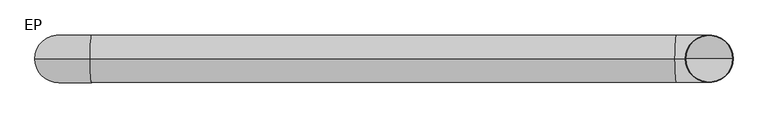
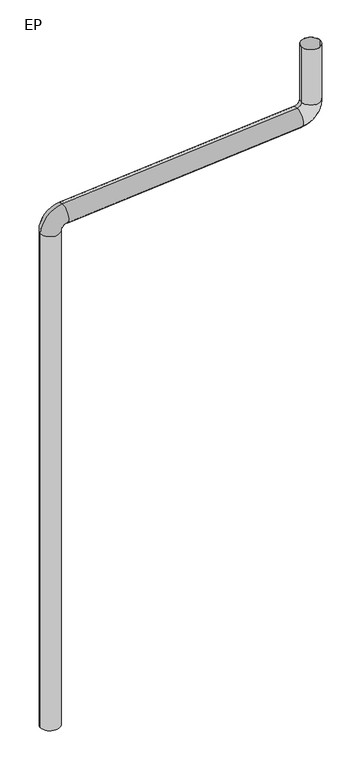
"""IFC4 building model written with IfcOpenShell, lengths in millimetres: flow terminal geometry, Descente Eau pluviale : EP."""

from ifc_helpers import new_model, si_unit, point, frame, origin, place, context, project, spatial, polyline, circle_curve, ellipse_curve, trimmed, source, transform, mapped, element, save
from ifc_brep_helpers import plane_surface, cylinder_surface, revolved_surface, advanced_brep


def ep_8dee0fc1(model_context):
    return source(origin(), model_context, "Body", "AdvancedBrep", [
        advanced_brep(
        [(40.0, 300.0, 870000.0), (-40.0, 300.0, 870000.0), (39.0, 300.0, 870000.0), (-39.0, 300.0, 870000.0), (-40.0, 300.0, 872184.7425977), (40.0, 300.0, 872184.7425977), (-39.0, 300.0, 872184.7425977), (39.0, 300.0, 872184.7425977), (51.7843344, 300.0, 872284.4045405), (58.3568669, 300.0, 872204.6749863), (51.8664911, 300.0, 872283.4079211), (58.2747102, 300.0, 872205.6716057), (1033.407977, 300.0, 872365.3250137), (1039.9805095, 300.0, 872285.5954595), (1033.4901337, 300.0, 872364.3283943), (1039.8983529, 300.0, 872286.5920789), (1051.7648439, 300.0, 872385.2574023), (1131.7648439, 300.0, 872385.2574023), (1052.7648439, 300.0, 872385.2574023), (1130.7648439, 300.0, 872385.2574023), (1131.7648439, 300.0, 872630.0), (1051.7648439, 300.0, 872630.0), (1130.7648439, 300.0, 872630.0), (1052.7648439, 300.0, 872630.0)],
        [
            (0, 1, circle_curve(frame((0.0, 300.0, 870000.0), z_axis=(0.0, 0.0, -1.0), x_axis=(-1.0, 0.0, 0.0)), 40.0)),
            (1, 0, circle_curve(frame((0.0, 300.0, 870000.0), z_axis=(0.0, 0.0, -1.0), x_axis=(-1.0, 0.0, 0.0)), 40.0)),
            (2, 3, circle_curve(frame((0.0, 300.0, 870000.0), z_axis=(0.0, 0.0, 1.0), x_axis=(-1.0, 0.0, 0.0)), 39.0)),
            (3, 2, circle_curve(frame((0.0, 300.0, 870000.0), z_axis=(0.0, 0.0, 1.0), x_axis=(-1.0, 0.0, 0.0)), 39.0)),
            (1, 4),
            (4, 5, circle_curve(frame((0.0, 300.0, 872184.7425977), z_axis=(0.0, 0.0, -1.0), x_axis=(-1.0, 0.0, 0.0)), 40.0)),
            (5, 0),
            (5, 4, circle_curve(frame((0.0, 300.0, 872184.7425977), z_axis=(0.0, 0.0, -1.0), x_axis=(-1.0, 0.0, 0.0)), 40.0)),
            (3, 6),
            (6, 7, circle_curve(frame((0.0, 300.0, 872184.7425977), z_axis=(0.0, 0.0, 1.0), x_axis=(-1.0, 0.0, 0.0)), 39.0)),
            (7, 2),
            (7, 6, circle_curve(frame((0.0, 300.0, 872184.7425977), z_axis=(0.0, 0.0, 1.0), x_axis=(-1.0, 0.0, 0.0)), 39.0)),
            (8, 9, circle_curve(frame((55.0706007, 300.0, 872244.5397634), z_axis=(-0.996619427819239, 0.0, -0.08215665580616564), x_axis=(-0.08215665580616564, 0.0, 0.996619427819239)), 40.0)),
            (9, 5, circle_curve(frame((60.0, 300.0, 872184.7425977), z_axis=(0.0, -1.0, 0.0), x_axis=(-1.0, 0.0, 0.0)), 20.0)),
            (4, 8, circle_curve(frame((60.0, 300.0, 872184.7425977), z_axis=(0.0, 1.0, 0.0), x_axis=(-1.0, 0.0, 0.0)), 100.0)),
            (9, 8, circle_curve(frame((55.0706007, 300.0, 872244.5397634), z_axis=(-0.9966194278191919, 0.0, -0.08215665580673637), x_axis=(-0.08215665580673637, 0.0, 0.9966194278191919)), 40.0)),
            (10, 11, circle_curve(frame((55.0706007, 300.0, 872244.5397634), z_axis=(0.996619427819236, 0.0, 0.0821566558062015), x_axis=(-0.0821566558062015, 0.0, 0.996619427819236)), 39.0)),
            (11, 7, circle_curve(frame((60.0, 300.0, 872184.7425977), z_axis=(0.0, -1.0, 0.0), x_axis=(-1.0, 0.0, 0.0)), 21.0)),
            (6, 10, circle_curve(frame((60.0, 300.0, 872184.7425977), z_axis=(0.0, 1.0, 0.0), x_axis=(-1.0, 0.0, 0.0)), 99.0)),
            (11, 10, circle_curve(frame((55.0706007, 300.0, 872244.5397634), z_axis=(0.996619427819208, 0.0, 0.08215665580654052), x_axis=(-0.08215665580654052, 0.0, 0.996619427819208)), 39.0)),
            (8, 12),
            (12, 13, circle_curve(frame((1036.6942433, 300.0, 872325.4602366), z_axis=(-0.9966194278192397, 0.0, -0.08215665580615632), x_axis=(-0.08215665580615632, 0.0, 0.9966194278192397)), 40.0)),
            (13, 9),
            (13, 12, circle_curve(frame((1036.6942433, 300.0, 872325.4602366), z_axis=(-0.9966194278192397, 0.0, -0.08215665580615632), x_axis=(-0.08215665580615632, 0.0, 0.9966194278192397)), 40.0)),
            (10, 14),
            (14, 15, circle_curve(frame((1036.6942433, 300.0, 872325.4602366), z_axis=(0.9966194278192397, 0.0, 0.08215665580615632), x_axis=(-0.08215665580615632, 0.0, 0.9966194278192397)), 39.0)),
            (15, 11),
            (15, 14, circle_curve(frame((1036.6942433, 300.0, 872325.4602366), z_axis=(0.9966194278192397, 0.0, 0.08215665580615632), x_axis=(-0.08215665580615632, 0.0, 0.9966194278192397)), 39.0)),
            (16, 17, circle_curve(frame((1091.7648439, 300.0, 872385.2574023), z_axis=(1.1808887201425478e-12, 0.0, -0.9999999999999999), x_axis=(-0.9999999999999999, 0.0, -1.1808887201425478e-12)), 40.0)),
            (17, 13, circle_curve(frame((1031.7648439, 300.0, 872385.2574023), z_axis=(0.0, 1.0, 0.0), x_axis=(0.08215665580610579, 0.0, -0.9966194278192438)), 100.0)),
            (12, 16, circle_curve(frame((1031.7648439, 300.0, 872385.2574023), z_axis=(0.0, -1.0, 0.0), x_axis=(0.08215665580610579, 0.0, -0.9966194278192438)), 20.0)),
            (17, 16, circle_curve(frame((1091.7648439, 300.0, 872385.2574023), z_axis=(0.0, 0.0, -0.9999999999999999), x_axis=(-0.9999999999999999, 0.0, 0.0)), 40.0)),
            (18, 19, circle_curve(frame((1091.7648439, 300.0, 872385.2574023), z_axis=(-3.4544034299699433e-12, 0.0, 1.0), x_axis=(-1.0, 0.0, -3.4544034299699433e-12)), 39.0)),
            (19, 15, circle_curve(frame((1031.7648439, 300.0, 872385.2574023), z_axis=(0.0, 1.0, 0.0), x_axis=(0.08215665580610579, 0.0, -0.9966194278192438)), 99.0)),
            (14, 18, circle_curve(frame((1031.7648439, 300.0, 872385.2574023), z_axis=(0.0, -1.0, 0.0), x_axis=(0.08215665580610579, 0.0, -0.9966194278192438)), 21.0)),
            (19, 18, circle_curve(frame((1091.7648439, 300.0, 872385.2574023), z_axis=(0.0, 0.0, 1.0), x_axis=(-1.0, 0.0, 0.0)), 39.0)),
            (20, 21, circle_curve(frame((1091.7648439, 300.0, 872630.0), z_axis=(0.0, 0.0, 1.0), x_axis=(-1.0, 0.0, 0.0)), 40.0)),
            (21, 20, circle_curve(frame((1091.7648439, 300.0, 872630.0), z_axis=(0.0, 0.0, 1.0), x_axis=(-1.0, 0.0, 0.0)), 40.0)),
            (22, 23, circle_curve(frame((1091.7648439, 300.0, 872630.0), z_axis=(0.0, 0.0, -1.0), x_axis=(-1.0, 0.0, 0.0)), 39.0)),
            (23, 22, circle_curve(frame((1091.7648439, 300.0, 872630.0), z_axis=(0.0, 0.0, -1.0), x_axis=(-1.0, 0.0, 0.0)), 39.0)),
            (16, 21),
            (20, 17),
            (18, 23),
            (22, 19),
        ],
        [
            plane_surface(frame((0.0, 300.0, 870000.0), z_axis=(0.0, 0.0, -1.0), x_axis=(0.0, 1.0, 0.0))),
            cylinder_surface(frame((0.0, 300.0, 870000.0), z_axis=(0.0, 0.0, -1.0), x_axis=(-1.0, 0.0, 0.0)), 40.0),
            revolved_surface(polyline([(-39.0, 300.0, 872184.7425977), (-39.0, 300.0, 870000.0)]), (0.0, 300.0, 870000.0), (0.0, 0.0, 1.0)),
            revolved_surface(trimmed(ellipse_curve(frame((0.0, 300.0, 872184.7425977), z_axis=(0.0, 0.0, 1.0), x_axis=(-1.0, 0.0, 0.0)), 40.0, 40.0), [point((40.0, 300.0, 872184.7425977))], [point((-40.0, 300.0, 872184.7425977))], True, "CARTESIAN"), (60.0, 300.0, 872184.7425977), (0.0, -1.0, 0.0)),
            revolved_surface(trimmed(ellipse_curve(frame((0.0, 300.0, 872184.7425977), z_axis=(0.0, 0.0, 1.0), x_axis=(-1.0, 0.0, 0.0)), 40.0, 40.0), [point((-40.0, 300.0, 872184.7425977))], [point((40.0, 300.0, 872184.7425977))], True, "CARTESIAN"), (60.0, 300.0, 872184.7425977), (0.0, -1.0, 0.0)),
            revolved_surface(trimmed(ellipse_curve(frame((0.0, 300.0, 872184.7425977), z_axis=(0.0, 0.0, -1.0), x_axis=(-1.0, 0.0, 0.0)), 39.0, 39.0), [point((39.0, 300.0, 872184.7425977))], [point((-39.0, 300.0, 872184.7425977))], True, "CARTESIAN"), (60.0, 300.0, 872184.7425977), (0.0, -1.0, 0.0)),
            revolved_surface(trimmed(ellipse_curve(frame((0.0, 300.0, 872184.7425977), z_axis=(0.0, 0.0, -1.0), x_axis=(-1.0, 0.0, 0.0)), 39.0, 39.0), [point((-39.0, 300.0, 872184.7425977))], [point((39.0, 300.0, 872184.7425977))], True, "CARTESIAN"), (60.0, 300.0, 872184.7425977), (0.0, -1.0, 0.0)),
            cylinder_surface(frame((55.0706007, 300.0, 872244.5397634), z_axis=(-0.9966194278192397, 0.0, -0.08215665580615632), x_axis=(-0.08215665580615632, 0.0, 0.9966194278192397)), 40.0),
            revolved_surface(polyline([(1033.4901337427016, 300.0, 872364.3283943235), (51.86649104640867, 300.0, 872283.4079210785)]), (55.0706007, 300.0, 872244.5397634), (0.9966194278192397, 0.0, 0.08215665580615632)),
            revolved_surface(trimmed(ellipse_curve(frame((1036.6942433, 300.0, 872325.4602366), z_axis=(0.9966194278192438, 0.0, 0.08215665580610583), x_axis=(-0.08215665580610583, 0.0, 0.9966194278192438)), 40.0, 40.0), [point((1039.9805095, 300.0, 872285.5954595))], [point((1033.407977, 300.0, 872365.3250137))], True, "CARTESIAN"), (1031.7648439, 300.0, 872385.2574023), (0.0, 1.0, 0.0)),
            revolved_surface(trimmed(ellipse_curve(frame((1036.6942433, 300.0, 872325.4602366), z_axis=(0.9966194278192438, 0.0, 0.08215665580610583), x_axis=(-0.08215665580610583, 0.0, 0.9966194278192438)), 40.0, 40.0), [point((1033.407977, 300.0, 872365.3250137))], [point((1039.9805095, 300.0, 872285.5954595))], True, "CARTESIAN"), (1031.7648439, 300.0, 872385.2574023), (0.0, 1.0, 0.0)),
            revolved_surface(trimmed(ellipse_curve(frame((1036.6942433, 300.0, 872325.4602366), z_axis=(-0.9966194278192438, 0.0, -0.08215665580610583), x_axis=(-0.08215665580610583, 0.0, 0.9966194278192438)), 39.0, 39.0), [point((1039.8983529, 300.0, 872286.5920789))], [point((1033.4901337, 300.0, 872364.3283943))], True, "CARTESIAN"), (1031.7648439, 300.0, 872385.2574023), (0.0, 1.0, 0.0)),
            revolved_surface(trimmed(ellipse_curve(frame((1036.6942433, 300.0, 872325.4602366), z_axis=(-0.9966194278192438, 0.0, -0.08215665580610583), x_axis=(-0.08215665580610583, 0.0, 0.9966194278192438)), 39.0, 39.0), [point((1033.4901337, 300.0, 872364.3283943))], [point((1039.8983529, 300.0, 872286.5920789))], True, "CARTESIAN"), (1031.7648439, 300.0, 872385.2574023), (0.0, 1.0, 0.0)),
            plane_surface(frame((1091.7648439, 300.0, 872630.0), z_axis=(0.0, 0.0, 1.0), x_axis=(0.0, 1.0, 0.0))),
            cylinder_surface(frame((1091.7648439, 300.0, 872385.2574023), z_axis=(0.0, 0.0, -1.0), x_axis=(-1.0, 0.0, 0.0)), 40.0),
            revolved_surface(polyline([(1052.7648439, 300.0, 872630.0), (1052.7648439, 300.0, 872385.2574022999)]), (1091.7648439, 300.0, 872385.2574023), (0.0, 0.0, 1.0)),
            revolved_surface(polyline([(1052.7648439, 300.0, 872630.0), (1052.7648439, 300.0, 872385.2574023)]), (1091.7648439, 300.0, 872385.2574023), (0.0, 0.0, 1.0)),
        ],
        [
            (0, [[1, 2], [3, 4]]),
            (1, [[5, 6, 7, -2]]),
            (1, [[-7, 8, -5, -1]]),
            (2, [[9, 10, 11, -4]]),
            (2, [[-11, 12, -9, -3]]),
            (3, [[13, 14, -6, 15]]),
            (4, [[16, -15, -8, -14]]),
            (5, [[17, 18, -10, 19]]),
            (6, [[20, -19, -12, -18]]),
            (7, [[21, 22, 23, -13]]),
            (7, [[-23, 24, -21, -16]]),
            (8, [[25, 26, 27, -17]]),
            (8, [[-27, 28, -25, -20]]),
            (9, [[29, 30, -22, 31]]),
            (10, [[32, -31, -24, -30]]),
            (11, [[33, 34, -26, 35]]),
            (12, [[36, -35, -28, -34]]),
            (13, [[37, 38], [39, 40]]),
            (14, [[41, -37, 42, -29]]),
            (14, [[-42, -38, -41, -32]]),
            (15, [[43, -39, 44, -33]]),
            (16, [[-44, -40, -43, -36]]),
        ],
    ),
    ])


if __name__ == "__main__":
    model = new_model("IFC4")
    model_context = context("Model", 3, world=origin())
    ifc_project = project(units=[si_unit("LENGTHUNIT", "METRE", prefix="MILLI")], contexts=[model_context])
    site = spatial("IfcSite", under=ifc_project)
    building = spatial("IfcBuilding", under=site)
    placement = place(None, origin())
    ep_shape = ep_8dee0fc1(model_context)
    element("IfcFlowTerminal", 1, ObjectType="Descente Eau pluviale : EP", at=placement, inside=building, context=model_context, shape_type="MappedRepresentation", body=[
        mapped(ep_shape, transform((0.0, 0.0, 0.0), x_axis=(1.0, 0.0, 0.0), y_axis=(0.0, 1.0, 0.0), z_axis=(0.0, 0.0, 1.0))),
    ])
    save(model, "model.ifc")
